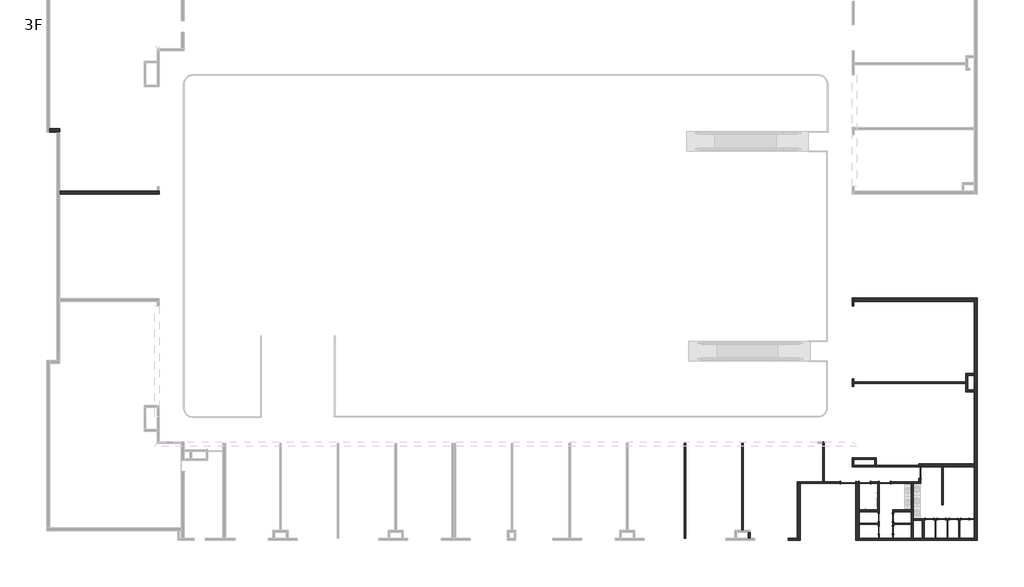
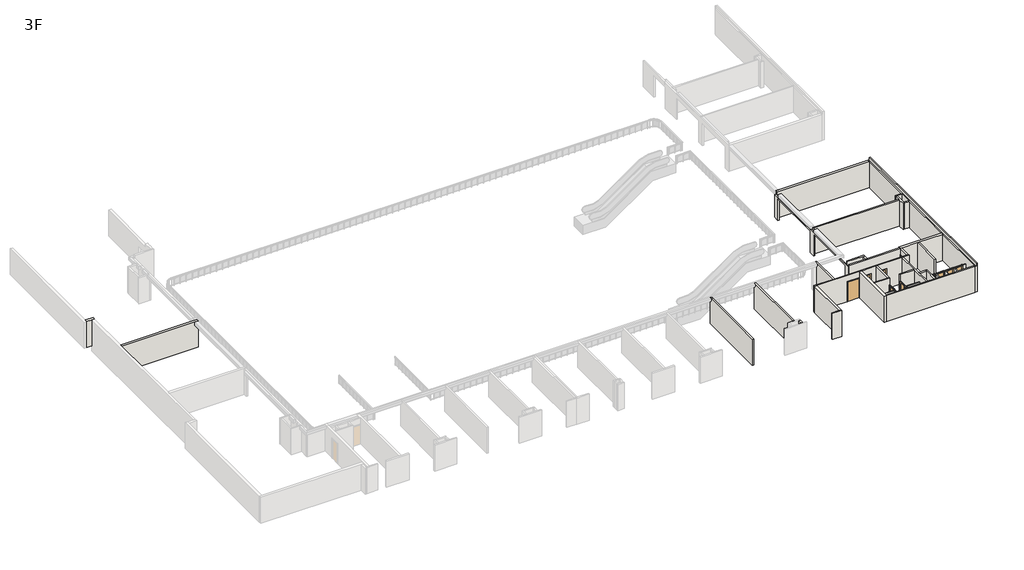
# One storey, part 2 of 4: 38 walls, 12 doors.
"""IFC4 building model written with IfcOpenShell, lengths in millimetres."""

from ifc_helpers import new_model, si_unit, frame, origin, place, context, project, spatial, polyline, outline, extrude, faceted_brep, transform, mapped, element, save
from components import m_single_flush_d_1200x2150_085a39eb, m_single_flush_d_600x2100_toilet_partition_8216d307, m_single_flush_d_900x2150_308bf3ab, m_single_flush_d_900x2150_4cfb9a1c

model = new_model("IFC4")

# Units and contexts
model_context = context("Model", 3, world=origin())
ifc_project = project(units=[si_unit("LENGTHUNIT", "METRE", prefix="MILLI")], contexts=[model_context])

# Site, building, storey
site = spatial("IfcSite", under=ifc_project)
building = spatial("IfcBuilding", under=site)
storey = spatial("IfcBuildingStorey", under=building, Name="3F", Elevation=11850.0)

# Doors
placement = place(None, origin())
m_single_flush_d_1200x2150_shape = m_single_flush_d_1200x2150_085a39eb(model_context)
element("IfcDoor", 1, ObjectType="M_Single-Flush : D-1200x2150", at=placement, inside=storey, context=model_context, shape_type="MappedRepresentation", body=[
    mapped(m_single_flush_d_1200x2150_shape, transform((32612.4134101, -21228.6148653, 11850.0), x_axis=(1.0, 0.0, 0.0), y_axis=(0.0, 1.0, 0.0), z_axis=(0.0, 0.0, 1.0))),
])
m_single_flush_d_600x2100_toilet_partition_shape = m_single_flush_d_600x2100_toilet_partition_8216d307(model_context)
element("IfcDoor", 2, ObjectType="M_Single-Flush : D-600x2100-toilet-partition", at=placement, inside=storey, context=model_context, shape_type="MappedRepresentation", body=[
    mapped(m_single_flush_d_600x2100_toilet_partition_shape, transform((39137.4134101, -24152.6148653, 11850.0), x_axis=(-1.0, 0.0, 0.0), y_axis=(0.0, -1.0, 0.0), z_axis=(0.0, 0.0, 1.0))),
])
element("IfcDoor", 3, ObjectType="M_Single-Flush : D-600x2100-toilet-partition", at=placement, inside=storey, context=model_context, shape_type="MappedRepresentation", body=[
    mapped(m_single_flush_d_600x2100_toilet_partition_shape, transform((40087.4134101, -24152.6148653, 11850.0), x_axis=(-1.0, 0.0, 0.0), y_axis=(0.0, -1.0, 0.0), z_axis=(0.0, 0.0, 1.0))),
])
element("IfcDoor", 4, ObjectType="M_Single-Flush : D-600x2100-toilet-partition", at=placement, inside=storey, context=model_context, shape_type="MappedRepresentation", body=[
    mapped(m_single_flush_d_600x2100_toilet_partition_shape, transform((41037.4134101, -24152.6148653, 11850.0), x_axis=(-1.0, 0.0, 0.0), y_axis=(0.0, -1.0, 0.0), z_axis=(0.0, 0.0, 1.0))),
])
element("IfcDoor", 5, ObjectType="M_Single-Flush : D-600x2100-toilet-partition", at=placement, inside=storey, context=model_context, shape_type="MappedRepresentation", body=[
    mapped(m_single_flush_d_600x2100_toilet_partition_shape, transform((41987.4134101, -24152.6148653, 11850.0), x_axis=(-1.0, 0.0, 0.0), y_axis=(0.0, -1.0, 0.0), z_axis=(0.0, 0.0, 1.0))),
])
element("IfcDoor", 6, ObjectType="M_Single-Flush : D-600x2100-toilet-partition", at=placement, inside=storey, context=model_context, shape_type="MappedRepresentation", body=[
    mapped(m_single_flush_d_600x2100_toilet_partition_shape, transform((36217.4134101, -24027.6148653, 11850.0), x_axis=(0.0, -1.0, 0.0), y_axis=(1.0, 0.0, 0.0), z_axis=(0.0, 0.0, 1.0))),
])
element("IfcDoor", 7, ObjectType="M_Single-Flush : D-600x2100-toilet-partition", at=placement, inside=storey, context=model_context, shape_type="MappedRepresentation", body=[
    mapped(m_single_flush_d_600x2100_toilet_partition_shape, transform((36217.4134101, -25027.6148653, 11850.0), x_axis=(0.0, -1.0, 0.0), y_axis=(1.0, 0.0, 0.0), z_axis=(0.0, 0.0, 1.0))),
])
element("IfcDoor", 8, ObjectType="M_Single-Flush : D-600x2100-toilet-partition", at=placement, inside=storey, context=model_context, shape_type="MappedRepresentation", body=[
    mapped(m_single_flush_d_600x2100_toilet_partition_shape, transform((35082.4134101, -24027.6148653, 11850.0), x_axis=(0.0, 1.0, 0.0), y_axis=(-1.0, 0.0, 0.0), z_axis=(0.0, 0.0, 1.0))),
])
element("IfcDoor", 9, ObjectType="M_Single-Flush : D-600x2100-toilet-partition", at=placement, inside=storey, context=model_context, shape_type="MappedRepresentation", body=[
    mapped(m_single_flush_d_600x2100_toilet_partition_shape, transform((35082.4134101, -25027.6148653, 11850.0), x_axis=(0.0, 1.0, 0.0), y_axis=(-1.0, 0.0, 0.0), z_axis=(0.0, 0.0, 1.0))),
])
m_single_flush_d_900x2150_shape = m_single_flush_d_900x2150_308bf3ab(model_context)
element("IfcDoor", 10, ObjectType="M_Single-Flush : D-900x2150", at=placement, inside=storey, context=model_context, shape_type="MappedRepresentation", body=[
    mapped(m_single_flush_d_900x2150_shape, transform((35557.4134101, -21228.6148653, 11850.0), x_axis=(-1.0, 0.0, 0.0), y_axis=(0.0, -1.0, 0.0), z_axis=(0.0, 0.0, 1.0))),
])
element("IfcDoor", 11, ObjectType="M_Single-Flush : D-900x2150", at=placement, inside=storey, context=model_context, shape_type="MappedRepresentation", body=[
    mapped(m_single_flush_d_900x2150_shape, transform((33942.4134101, -21228.6148653, 11850.0), x_axis=(-1.0, 0.0, 0.0), y_axis=(0.0, -1.0, 0.0), z_axis=(0.0, 0.0, 1.0))),
])
m_single_flush_d_900x2150_2_shape = m_single_flush_d_900x2150_4cfb9a1c(model_context)
element("IfcDoor", 12, ObjectType="M_Single-Flush : D-900x2150", at=placement, inside=storey, context=model_context, shape_type="MappedRepresentation", body=[
    mapped(m_single_flush_d_900x2150_2_shape, transform((38363.4134101, -20422.6148653, 11850.0), x_axis=(0.0, 1.0, 0.0), y_axis=(-1.0, 0.0, 0.0), z_axis=(0.0, 0.0, 1.0))),
])

# Walls
element("IfcWall", 13, ObjectType="Toilet-partition", at=placement, inside=storey, context=model_context, shape_type="Brep", body=[
    faceted_brep([(41337.4134101, -24177.6148653, 11850.0), (41487.4134101, -24177.6148653, 11850.0), (41537.4134101, -24177.6148653, 11850.0), (41687.4134101, -24177.6148653, 11850.0), (41687.4134101, -24177.6148653, 13950.0), (42287.4134101, -24177.6148653, 13950.0), (42287.4134101, -24177.6148653, 11850.0), (42717.4134101, -24177.6148653, 11850.0), (42717.4134101, -24177.6148653, 14000.0), (41537.4134101, -24177.6148653, 14000.0), (41487.4134101, -24177.6148653, 14000.0), (40587.4134101, -24177.6148653, 14000.0), (40537.4134101, -24177.6148653, 14000.0), (39637.4134101, -24177.6148653, 14000.0), (39587.4134101, -24177.6148653, 14000.0), (38699.4134101, -24177.6148653, 14000.0), (38699.4134101, -24177.6148653, 11850.0), (38837.4134101, -24177.6148653, 11850.0), (38837.4134101, -24177.6148653, 13950.0), (39437.4134101, -24177.6148653, 13950.0), (39437.4134101, -24177.6148653, 11850.0), (39587.4134101, -24177.6148653, 11850.0), (39637.4134101, -24177.6148653, 11850.0), (39787.4134101, -24177.6148653, 11850.0), (39787.4134101, -24177.6148653, 13950.0), (40387.4134101, -24177.6148653, 13950.0), (40387.4134101, -24177.6148653, 11850.0), (40537.4134101, -24177.6148653, 11850.0), (40587.4134101, -24177.6148653, 11850.0), (40737.4134101, -24177.6148653, 11850.0), (40737.4134101, -24177.6148653, 13950.0), (41337.4134101, -24177.6148653, 13950.0), (41687.4134101, -24127.6148653, 13950.0), (41687.4134101, -24127.6148653, 11850.0), (41337.4134101, -24127.6148653, 11850.0), (41337.4134101, -24127.6148653, 13950.0), (40737.4134101, -24127.6148653, 13950.0), (40737.4134101, -24127.6148653, 11850.0), (40387.4134101, -24127.6148653, 11850.0), (40387.4134101, -24127.6148653, 13950.0), (39787.4134101, -24127.6148653, 13950.0), (39787.4134101, -24127.6148653, 11850.0), (39437.4134101, -24127.6148653, 11850.0), (39437.4134101, -24127.6148653, 13950.0), (38837.4134101, -24127.6148653, 13950.0), (38837.4134101, -24127.6148653, 11850.0), (38699.4134101, -24127.6148653, 11850.0), (38699.4134101, -24127.6148653, 14000.0), (42717.4134101, -24127.6148653, 14000.0), (42717.4134101, -24127.6148653, 11850.0), (42287.4134101, -24127.6148653, 11850.0), (42287.4134101, -24127.6148653, 13950.0)], [[[0, 1, 2, 3, 4, 5, 6, 7, 8, 9, 10, 11, 12, 13, 14, 15, 16, 17, 18, 19, 20, 21, 22, 23, 24, 25, 26, 27, 28, 29, 30, 31]], [[32, 33, 34, 35, 36, 37, 38, 39, 40, 41, 42, 43, 44, 45, 46, 47, 48, 49, 50, 51]], [[46, 45, 17, 16]], [[42, 41, 23, 22, 21, 20]], [[38, 37, 29, 28, 27, 26]], [[34, 33, 3, 2, 1, 0]], [[50, 49, 7, 6]], [[15, 14, 13, 12, 11, 10, 9, 8, 48, 47]], [[16, 15, 47, 46]], [[8, 7, 49, 48]], [[18, 17, 45, 44]], [[19, 18, 44, 43]], [[20, 19, 43, 42]], [[24, 23, 41, 40]], [[25, 24, 40, 39]], [[26, 25, 39, 38]], [[30, 29, 37, 36]], [[31, 30, 36, 35]], [[0, 31, 35, 34]], [[4, 3, 33, 32]], [[5, 4, 32, 51]], [[6, 5, 51, 50]]]),
])
element("IfcWall", 14, ObjectType="Toilet-partition", at=placement, inside=storey, context=model_context, shape_type="SweptSolid", body=[
    extrude(outline(polyline([(39587.4134101, -25692.6148653), (39587.4134101, -24177.6148653), (39637.4134101, -24177.6148653), (39637.4134101, -25692.6148653), (39587.4134101, -25692.6148653)])), frame((0.0, 0.0, 11850.0), z_axis=(0.0, 0.0, 1.0), x_axis=(1.0, 0.0, 0.0)), (0.0, 0.0, 1.0), 2150.0),
])
element("IfcWall", 15, ObjectType="Toilet-partition", at=placement, inside=storey, context=model_context, shape_type="SweptSolid", body=[
    extrude(outline(polyline([(40537.4134101, -25692.6148653), (40537.4134101, -24177.6148653), (40587.4134101, -24177.6148653), (40587.4134101, -25692.6148653), (40537.4134101, -25692.6148653)])), frame((0.0, 0.0, 11850.0), z_axis=(0.0, 0.0, 1.0), x_axis=(1.0, 0.0, 0.0)), (0.0, 0.0, 1.0), 2150.0),
])
element("IfcWall", 16, ObjectType="Toilet-partition", at=placement, inside=storey, context=model_context, shape_type="SweptSolid", body=[
    extrude(outline(polyline([(41487.4134101, -25692.6148653), (41487.4134101, -24177.6148653), (41537.4134101, -24177.6148653), (41537.4134101, -25692.6148653), (41487.4134101, -25692.6148653)])), frame((0.0, 0.0, 11850.0), z_axis=(0.0, 0.0, 1.0), x_axis=(1.0, 0.0, 0.0)), (0.0, 0.0, 1.0), 2150.0),
])
element("IfcWall", 17, ObjectType="Toilet-partition", at=placement, inside=storey, context=model_context, shape_type="Brep", body=[
    faceted_brep([(36192.4134101, -25327.6148653, 13950.0), (36192.4134101, -25327.6148653, 11850.0), (36192.4134101, -25692.6148653, 11850.0), (36192.4134101, -25692.6148653, 14000.0), (36192.4134101, -23564.6148653, 14000.0), (36192.4134101, -23564.6148653, 11850.0), (36192.4134101, -23727.6148653, 11850.0), (36192.4134101, -23727.6148653, 13950.0), (36192.4134101, -24327.6148653, 13950.0), (36192.4134101, -24327.6148653, 11850.0), (36192.4134101, -24727.6148653, 11850.0), (36192.4134101, -24727.6148653, 13950.0), (36242.4134101, -25692.6148653, 11850.0), (36242.4134101, -25327.6148653, 11850.0), (36242.4134101, -25327.6148653, 13950.0), (36242.4134101, -24727.6148653, 13950.0), (36242.4134101, -24727.6148653, 11850.0), (36242.4134101, -24552.6148653, 11850.0), (36242.4134101, -24502.6148653, 11850.0), (36242.4134101, -24327.6148653, 11850.0), (36242.4134101, -24327.6148653, 13950.0), (36242.4134101, -23727.6148653, 13950.0), (36242.4134101, -23727.6148653, 11850.0), (36242.4134101, -23564.6148653, 11850.0), (36242.4134101, -23564.6148653, 14000.0), (36242.4134101, -24502.6148653, 14000.0), (36242.4134101, -24552.6148653, 14000.0), (36242.4134101, -25692.6148653, 14000.0)], [[[0, 1, 2, 3, 4, 5, 6, 7, 8, 9, 10, 11]], [[12, 13, 14, 15, 16, 17, 18, 19, 20, 21, 22, 23, 24, 25, 26, 27]], [[2, 1, 13, 12]], [[6, 5, 23, 22]], [[10, 9, 19, 18, 17, 16]], [[4, 3, 27, 26, 25, 24]], [[5, 4, 24, 23]], [[3, 2, 12, 27]], [[20, 19, 9, 8]], [[21, 20, 8, 7]], [[22, 21, 7, 6]], [[14, 13, 1, 0]], [[15, 14, 0, 11]], [[16, 15, 11, 10]]]),
])
element("IfcWall", 18, ObjectType="Toilet-partition", at=placement, inside=storey, context=model_context, shape_type="SweptSolid", body=[
    extrude(outline(polyline([(37692.4134101, -24552.6148653), (36242.4134101, -24552.6148653), (36242.4134101, -24502.6148653), (37692.4134101, -24502.6148653), (37692.4134101, -24552.6148653)])), frame((0.0, 0.0, 11850.0), z_axis=(0.0, 0.0, 1.0), x_axis=(1.0, 0.0, 0.0)), (0.0, 0.0, 1.0), 2150.0),
])
element("IfcWall", 19, ObjectType="Toilet-partition", at=placement, inside=storey, context=model_context, shape_type="Brep", body=[
    faceted_brep([(35057.4134101, -24327.6148653, 11850.0), (35057.4134101, -24502.6148653, 11850.0), (35057.4134101, -24552.6148653, 11850.0), (35057.4134101, -24727.6148653, 11850.0), (35057.4134101, -24727.6148653, 13950.0), (35057.4134101, -25327.6148653, 13950.0), (35057.4134101, -25327.6148653, 11850.0), (35057.4134101, -25692.6148653, 11850.0), (35057.4134101, -25692.6148653, 14000.0), (35057.4134101, -24552.6148653, 14000.0), (35057.4134101, -24502.6148653, 14000.0), (35057.4134101, -23564.6148653, 14000.0), (35057.4134101, -23564.6148653, 11850.0), (35057.4134101, -23727.6148653, 11850.0), (35057.4134101, -23727.6148653, 13950.0), (35057.4134101, -24327.6148653, 13950.0), (35107.4134101, -24727.6148653, 13950.0), (35107.4134101, -24727.6148653, 11850.0), (35107.4134101, -24327.6148653, 11850.0), (35107.4134101, -24327.6148653, 13950.0), (35107.4134101, -23727.6148653, 13950.0), (35107.4134101, -23727.6148653, 11850.0), (35107.4134101, -23564.6148653, 11850.0), (35107.4134101, -23564.6148653, 14000.0), (35107.4134101, -25692.6148653, 14000.0), (35107.4134101, -25692.6148653, 11850.0), (35107.4134101, -25327.6148653, 11850.0), (35107.4134101, -25327.6148653, 13950.0)], [[[0, 1, 2, 3, 4, 5, 6, 7, 8, 9, 10, 11, 12, 13, 14, 15]], [[16, 17, 18, 19, 20, 21, 22, 23, 24, 25, 26, 27]], [[22, 21, 13, 12]], [[18, 17, 3, 2, 1, 0]], [[26, 25, 7, 6]], [[11, 10, 9, 8, 24, 23]], [[12, 11, 23, 22]], [[8, 7, 25, 24]], [[14, 13, 21, 20]], [[15, 14, 20, 19]], [[0, 15, 19, 18]], [[4, 3, 17, 16]], [[5, 4, 16, 27]], [[6, 5, 27, 26]]]),
])
element("IfcWall", 20, ObjectType="Toilet-partition", at=placement, inside=storey, context=model_context, shape_type="SweptSolid", body=[
    extrude(outline(polyline([(33504.4134101, -24502.6148653), (35057.4134101, -24502.6148653), (35057.4134101, -24552.6148653), (33504.4134101, -24552.6148653), (33504.4134101, -24502.6148653)])), frame((0.0, 0.0, 11850.0), z_axis=(0.0, 0.0, 1.0), x_axis=(1.0, 0.0, 0.0)), (0.0, 0.0, 1.0), 2150.0),
])
element("IfcWall", 21, ObjectType="wall-115", at=placement, inside=storey, context=model_context, shape_type="Brep", body=[
    faceted_brep([(28542.4134101, -21299.6148653, 11850.0), (28799.4134101, -21299.6148653, 11850.0), (32012.4134101, -21299.6148653, 11850.0), (32012.4134101, -21299.6148653, 14000.0), (33212.4134101, -21299.6148653, 14000.0), (33212.4134101, -21299.6148653, 11850.0), (33247.4134101, -21299.6148653, 11850.0), (33492.4134101, -21299.6148653, 11850.0), (33492.4134101, -21299.6148653, 14000.0), (34392.4134101, -21299.6148653, 14000.0), (34392.4134101, -21299.6148653, 11850.0), (34977.4134101, -21299.6148653, 11850.0), (35107.4134101, -21299.6148653, 11850.0), (35107.4134101, -21299.6148653, 14000.0), (36007.4134101, -21299.6148653, 14000.0), (36007.4134101, -21299.6148653, 11850.0), (37692.4134101, -21299.6148653, 11850.0), (37834.4134101, -21299.6148653, 11850.0), (38434.4134101, -21299.6148653, 11850.0), (38434.4134101, -21299.6148653, 14725.0), (37834.4134101, -21299.6148653, 14725.0), (37692.4134101, -21299.6148653, 14725.0), (35119.4134101, -21299.6148653, 14725.0), (34977.4134101, -21299.6148653, 14725.0), (33504.4134101, -21299.6148653, 14725.0), (33247.4134101, -21299.6148653, 14725.0), (28799.4134101, -21299.6148653, 14725.0), (28542.4134101, -21299.6148653, 14725.0), (32012.4134101, -21157.6148653, 11850.0), (30724.4134101, -21157.6148653, 11850.0), (30582.4134101, -21157.6148653, 11850.0), (28542.4134101, -21157.6148653, 11850.0), (28542.4134101, -21157.6148653, 14725.0), (30582.4134101, -21157.6148653, 14725.0), (30724.4134101, -21157.6148653, 14725.0), (38292.4134101, -21157.6148653, 14725.0), (38434.4134101, -21157.6148653, 14725.0), (38434.4134101, -21157.6148653, 11850.0), (38292.4134101, -21157.6148653, 11850.0), (36007.4134101, -21157.6148653, 11850.0), (36007.4134101, -21157.6148653, 14000.0), (35107.4134101, -21157.6148653, 14000.0), (35107.4134101, -21157.6148653, 11850.0), (34392.4134101, -21157.6148653, 11850.0), (34392.4134101, -21157.6148653, 14000.0), (33492.4134101, -21157.6148653, 14000.0), (33492.4134101, -21157.6148653, 11850.0), (33212.4134101, -21157.6148653, 11850.0), (33212.4134101, -21157.6148653, 14000.0), (32012.4134101, -21157.6148653, 14000.0)], [[[0, 1, 2, 3, 4, 5, 6, 7, 8, 9, 10, 11, 12, 13, 14, 15, 16, 17, 18, 19, 20, 21, 22, 23, 24, 25, 26, 27]], [[28, 29, 30, 31, 32, 33, 34, 35, 36, 37, 38, 39, 40, 41, 42, 43, 44, 45, 46, 47, 48, 49]], [[37, 18, 17, 16, 15, 39, 38]], [[0, 31, 30, 29, 28, 2, 1]], [[5, 47, 46, 7, 6]], [[42, 12, 11, 10, 43]], [[18, 37, 36, 19]], [[31, 0, 27, 32]], [[4, 48, 47, 5]], [[48, 4, 3, 49]], [[49, 3, 2, 28]], [[13, 12, 42, 41]], [[14, 13, 41, 40]], [[15, 14, 40, 39]], [[8, 7, 46, 45]], [[9, 8, 45, 44]], [[10, 9, 44, 43]], [[27, 26, 25, 24, 23, 22, 21, 20, 19, 36, 35, 34, 33, 32]]]),
])
element("IfcWall", 22, ObjectType="wall-115", at=placement, inside=storey, context=model_context, shape_type="Brep", body=[
    faceted_brep([(42717.4134101, -12495.6148653, 11850.0), (42055.4134101, -12495.6148653, 11850.0), (42055.4134101, -12495.6148653, 14725.0), (42717.4134101, -12495.6148653, 14725.0), (42055.4134101, -12637.6148653, 11850.0), (42197.4134101, -12637.6148653, 11850.0), (42717.4134101, -12637.6148653, 11850.0), (42717.4134101, -12637.6148653, 14725.0), (42197.4134101, -12637.6148653, 14725.0), (42055.4134101, -12637.6148653, 14725.0)], [[[0, 1, 2, 3]], [[4, 5, 6, 7, 8, 9]], [[1, 0, 6, 5, 4]], [[1, 4, 9, 2]], [[6, 0, 3, 7]], [[3, 2, 9, 8, 7]]]),
])
element("IfcWall", 23, ObjectType="wall-115", at=placement, inside=storey, context=model_context, shape_type="Brep", body=[
    faceted_brep([(42055.4134101, -12637.6148653, 11850.0), (42055.4134101, -13150.1148653, 11850.0), (42055.4134101, -13292.1148653, 11850.0), (42055.4134101, -13949.6148653, 11850.0), (42055.4134101, -13949.6148653, 14725.0), (42055.4134101, -13292.1148653, 14725.0), (42055.4134101, -13150.1148653, 14725.0), (42055.4134101, -12637.6148653, 14725.0), (42197.4134101, -13949.6148653, 11850.0), (42197.4134101, -13807.6148653, 11850.0), (42197.4134101, -12637.6148653, 11850.0), (42197.4134101, -12637.6148653, 14725.0), (42197.4134101, -13807.6148653, 14725.0), (42197.4134101, -13949.6148653, 14725.0)], [[[0, 1, 2, 3, 4, 5, 6, 7]], [[8, 9, 10, 11, 12, 13]], [[3, 2, 1, 0, 10, 9, 8]], [[3, 8, 13, 4]], [[10, 0, 7, 11]], [[7, 6, 5, 4, 13, 12, 11]]]),
])
element("IfcWall", 24, ObjectType="wall-115", at=placement, inside=storey, context=model_context, shape_type="SweptSolid", body=[
    extrude(outline(polyline([(42717.4134101, -13949.6148653), (42197.4134101, -13949.6148653), (42197.4134101, -13807.6148653), (42717.4134101, -13807.6148653), (42717.4134101, -13949.6148653)])), frame((0.0, 0.0, 11850.0), z_axis=(0.0, 0.0, 1.0), x_axis=(1.0, 0.0, 0.0)), (0.0, 0.0, 1.0), 2875.0),
])
element("IfcWall", 25, ObjectType="wall-115", at=placement, inside=storey, context=model_context, shape_type="Brep", body=[
    faceted_brep([(38434.4134101, -21157.6148653, 11850.0), (38434.4134101, -20872.6148653, 11850.0), (38434.4134101, -20872.6148653, 14000.0), (38434.4134101, -19984.6148653, 14000.0), (38434.4134101, -19984.6148653, 14725.0), (38434.4134101, -21157.6148653, 14725.0), (38292.4134101, -20872.6148653, 11850.0), (38292.4134101, -21157.6148653, 11850.0), (38292.4134101, -21157.6148653, 14725.0), (38292.4134101, -19987.6148653, 14725.0), (38292.4134101, -19984.6148653, 14725.0), (38292.4134101, -19984.6148653, 14000.0), (38292.4134101, -20872.6148653, 14000.0)], [[[0, 1, 2, 3, 4, 5]], [[6, 7, 8, 9, 10, 11, 12]], [[0, 7, 6, 1]], [[7, 0, 5, 8]], [[3, 11, 10, 4]], [[2, 12, 11, 3]], [[12, 2, 1, 6]], [[5, 4, 10, 9, 8]]]),
])
element("IfcWall", 26, ObjectType="wall-115", at=placement, inside=storey, context=model_context, shape_type="SweptSolid", body=[
    extrude(outline(polyline([(40244.8019347, -19984.6148653), (40244.8019347, -23027.6148653), (40102.8019347, -23027.6148653), (40102.8019347, -19984.6148653), (40244.8019347, -19984.6148653)])), frame((0.0, 0.0, 11850.0), z_axis=(0.0, 0.0, 1.0), x_axis=(1.0, 0.0, 0.0)), (0.0, 0.0, 1.0), 2875.0),
])
element("IfcWall", 27, ObjectType="wall-115", at=placement, inside=storey, context=model_context, shape_type="Brep", body=[
    faceted_brep([(30724.4134101, -21157.6148653, 11850.0), (30724.4134101, -17960.6148653, 11850.0), (30724.4134101, -17960.6148653, 14725.0), (30724.4134101, -21157.6148653, 14725.0), (30582.4134101, -17960.6148653, 11850.0), (30582.4134101, -18102.6148653, 11850.0), (30582.4134101, -21157.6148653, 11850.0), (30582.4134101, -21157.6148653, 14725.0), (30582.4134101, -18102.6148653, 14725.0), (30582.4134101, -17960.6148653, 14725.0)], [[[0, 1, 2, 3]], [[4, 5, 6, 7, 8, 9]], [[1, 0, 6, 5, 4]], [[1, 4, 9, 2]], [[6, 0, 3, 7]], [[3, 2, 9, 8, 7]]]),
])
element("IfcWall", 28, ObjectType="wall-115", at=placement, inside=storey, context=model_context, shape_type="Brep", body=[
    faceted_brep([(27812.4134101, -25834.6148653, 11850.0), (28799.4134101, -25834.6148653, 11850.0), (28799.4134101, -25834.6148653, 14725.0), (27812.4134101, -25834.6148653, 14725.0), (28799.4134101, -25692.6148653, 11850.0), (28542.4134101, -25692.6148653, 11850.0), (27812.4134101, -25692.6148653, 11850.0), (27812.4134101, -25692.6148653, 14725.0), (28542.4134101, -25692.6148653, 14725.0), (28799.4134101, -25692.6148653, 14725.0)], [[[0, 1, 2, 3]], [[4, 5, 6, 7, 8, 9]], [[1, 0, 6, 5, 4]], [[6, 0, 3, 7]], [[1, 4, 9, 2]], [[3, 2, 9, 8, 7]]]),
])
element("IfcWall", 29, ObjectType="wall-115", at=placement, inside=storey, context=model_context, shape_type="SweptSolid", body=[
    extrude(outline(polyline([(24241.9134101, -18102.6148653), (24241.9134101, -25062.6148653), (24099.9134101, -25062.6148653), (24099.9134101, -18102.6148653), (24241.9134101, -18102.6148653)])), frame((0.0, 0.0, 11850.0), z_axis=(0.0, 0.0, 1.0), x_axis=(1.0, 0.0, 0.0)), (0.0, 0.0, 1.0), 2875.0),
])
element("IfcWall", 30, ObjectType="wall-115", at=placement, inside=storey, context=model_context, shape_type="SweptSolid", body=[
    extrude(outline(polyline([(19626.9134101, -18102.6148653), (19626.9134101, -25707.6148653), (19484.9134101, -25707.6148653), (19484.9134101, -18102.6148653), (19626.9134101, -18102.6148653)])), frame((0.0, 0.0, 11850.0), z_axis=(0.0, 0.0, 1.0), x_axis=(1.0, 0.0, 0.0)), (0.0, 0.0, 1.0), 2875.0),
])
element("IfcWall", 31, ObjectType="wall-115", at=placement, inside=storey, context=model_context, shape_type="SweptSolid", body=[
    extrude(outline(polyline([(24645.4134101, -25692.6148653), (24645.4134101, -25204.6148653), (24787.4134101, -25204.6148653), (24787.4134101, -25692.6148653), (24645.4134101, -25692.6148653)])), frame((0.0, 0.0, 11850.0), z_axis=(0.0, 0.0, 1.0), x_axis=(1.0, 0.0, 0.0)), (0.0, 0.0, 1.0), 2875.0),
])
element("IfcWall", 32, ObjectType="wall-115", at=placement, inside=storey, context=model_context, shape_type="Brep", body=[
    faceted_brep([(38292.4134101, -19845.6148653, 11850.0), (34889.4134101, -19845.6148653, 11850.0), (34747.4134101, -19845.6148653, 11850.0), (33089.4134101, -19845.6148653, 11850.0), (32947.4134101, -19845.6148653, 11850.0), (32947.4134101, -19845.6148653, 14375.0), (32947.4134101, -19845.6148653, 14725.0), (34747.4134101, -19845.6148653, 14725.0), (34889.4134101, -19845.6148653, 14725.0), (38292.4134101, -19845.6148653, 14725.0), (32947.4134101, -19987.6148653, 11850.0), (38292.4134101, -19987.6148653, 11850.0), (38292.4134101, -19987.6148653, 14725.0), (32947.4134101, -19987.6148653, 14725.0), (38292.4134101, -19972.6148653, 11850.0), (38292.4134101, -19984.6148653, 14725.0)], [[[0, 1, 2, 3, 4, 5, 6, 7, 8, 9]], [[10, 11, 12, 13]], [[4, 3, 2, 1, 0, 14, 11, 10]], [[4, 10, 13, 6, 5]], [[11, 14, 0, 9, 15, 12]], [[9, 8, 7, 6, 13, 12, 15]]]),
])
element("IfcWall", 33, ObjectType="wall-115", at=placement, inside=storey, context=model_context, shape_type="SweptSolid", body=[
    extrude(outline(polyline([(42055.4134101, -13292.1148653), (33089.4134101, -13292.1148653), (33089.4134101, -13150.1148653), (42055.4134101, -13150.1148653), (42055.4134101, -13292.1148653)])), frame((0.0, 0.0, 11850.0), z_axis=(0.0, 0.0, 1.0), x_axis=(1.0, 0.0, 0.0)), (0.0, 0.0, 1.0), 2875.0),
])
element("IfcWall", 34, ObjectType="wall-115", at=placement, inside=storey, context=model_context, shape_type="Brep", body=[
    faceted_brep([(33089.4134101, -6457.6148653, 11850.0), (33089.4134101, -6457.6148653, 14375.0), (33089.4134101, -17960.6148653, 14375.0), (33089.4134101, -19845.6148653, 14375.0), (33089.4134101, -19845.6148653, 11850.0), (33089.4134101, -19387.6148653, 11850.0), (33089.4134101, -19257.6148653, 11850.0), (33089.4134101, -19257.6148653, 14250.0), (33089.4134101, -13522.6148653, 14250.0), (33089.4134101, -13522.6148653, 11850.0), (33089.4134101, -13292.1148653, 11850.0), (33089.4134101, -13150.1148653, 11850.0), (33089.4134101, -12922.6148653, 11850.0), (33089.4134101, -12922.6148653, 14250.0), (33089.4134101, -7072.6148653, 14250.0), (33089.4134101, -7072.6148653, 11850.0), (33089.4134101, -6714.6148653, 11850.0), (32947.4134101, -6457.6148653, 14375.0), (32947.4134101, -6457.6148653, 11850.0), (32947.4134101, -7072.6148653, 11850.0), (32947.4134101, -7072.6148653, 14250.0), (32947.4134101, -12922.6148653, 14250.0), (32947.4134101, -12922.6148653, 11850.0), (32947.4134101, -13522.6148653, 11850.0), (32947.4134101, -13522.6148653, 14250.0), (32947.4134101, -19257.6148653, 14250.0), (32947.4134101, -19257.6148653, 11850.0), (32947.4134101, -19845.6148653, 11850.0), (32947.4134101, -19845.6148653, 14375.0), (32947.4134101, -17960.6148653, 14375.0), (32950.4134101, -6457.6148653, 14375.0), (32950.4134101, -19845.6148653, 14375.0), (32950.4134101, -17960.6148653, 14375.0)], [[[0, 1, 2, 3, 4, 5, 6, 7, 8, 9, 10, 11, 12, 13, 14, 15, 16]], [[17, 18, 19, 20, 21, 22, 23, 24, 25, 26, 27, 28, 29]], [[18, 0, 16, 15, 19]], [[4, 27, 26, 6, 5]], [[9, 23, 22, 12, 11, 10]], [[1, 0, 18, 17, 30]], [[4, 3, 31, 28, 27]], [[28, 31, 32, 29]], [[1, 30, 32, 2]], [[31, 3, 2, 32]], [[30, 17, 29, 32]], [[7, 25, 24, 8]], [[8, 24, 23, 9]], [[25, 7, 6, 26]], [[20, 14, 13, 21]], [[21, 13, 12, 22]], [[14, 20, 19, 15]]]),
])
element("IfcWall", 35, ObjectType="wall-115", at=placement, inside=storey, context=model_context, shape_type="Brep", body=[
    faceted_brep([(33089.4134101, -19387.6148653, 11850.0), (34747.4134101, -19387.6148653, 11850.0), (34889.4134101, -19387.6148653, 11850.0), (34889.4134101, -19387.6148653, 14725.0), (34747.4134101, -19387.6148653, 14725.0), (33089.4134101, -19387.6148653, 14725.0), (34889.4134101, -19245.6148653, 11850.0), (33089.4134101, -19245.6148653, 11850.0), (33089.4134101, -19245.6148653, 14725.0), (34889.4134101, -19245.6148653, 14725.0), (33089.4134101, -19257.6148653, 11850.0)], [[[0, 1, 2, 3, 4, 5]], [[6, 7, 8, 9]], [[2, 1, 0, 10, 7, 6]], [[2, 6, 9, 3]], [[7, 10, 0, 5, 8]], [[5, 4, 3, 9, 8]]]),
])
element("IfcWall", 36, ObjectType="wall-115", at=placement, inside=storey, context=model_context, shape_type="SweptSolid", body=[
    extrude(outline(polyline([(34747.4134101, -19845.6148653), (34747.4134101, -19387.6148653), (34889.4134101, -19387.6148653), (34889.4134101, -19845.6148653), (34747.4134101, -19845.6148653)])), frame((0.0, 0.0, 11850.0), z_axis=(0.0, 0.0, 1.0), x_axis=(1.0, 0.0, 0.0)), (0.0, 0.0, 1.0), 2875.0),
])
element("IfcWall", 37, ObjectType="wall-115", at=placement, inside=storey, context=model_context, shape_type="Brep", body=[
    faceted_brep([(33504.4134101, -23564.6148653, 11850.0), (35057.4134101, -23564.6148653, 11850.0), (35107.4134101, -23564.6148653, 11850.0), (35119.4134101, -23564.6148653, 11850.0), (35119.4134101, -23564.6148653, 14725.0), (33504.4134101, -23564.6148653, 14725.0), (35119.4134101, -23422.6148653, 11850.0), (34977.4134101, -23422.6148653, 11850.0), (33504.4134101, -23422.6148653, 11850.0), (33504.4134101, -23422.6148653, 14725.0), (34977.4134101, -23422.6148653, 14725.0), (35119.4134101, -23422.6148653, 14725.0)], [[[0, 1, 2, 3, 4, 5]], [[6, 7, 8, 9, 10, 11]], [[3, 2, 1, 0, 8, 7, 6]], [[8, 0, 5, 9]], [[3, 6, 11, 4]], [[5, 4, 11, 10, 9]]]),
])
element("IfcWall", 38, ObjectType="wall-115", at=placement, inside=storey, context=model_context, shape_type="Brep", body=[
    faceted_brep([(35119.4134101, -23422.6148653, 11850.0), (35119.4134101, -21299.6148653, 11850.0), (35119.4134101, -21299.6148653, 14725.0), (35119.4134101, -23422.6148653, 14725.0), (34977.4134101, -21299.6148653, 11850.0), (34977.4134101, -23422.6148653, 11850.0), (34977.4134101, -23422.6148653, 14725.0), (34977.4134101, -21299.6148653, 14725.0), (35107.4134101, -21299.6148653, 11850.0)], [[[0, 1, 2, 3]], [[4, 5, 6, 7]], [[1, 0, 5, 4, 8]], [[5, 0, 3, 6]], [[1, 8, 4, 7, 2]], [[3, 2, 7, 6]]]),
])
element("IfcWall", 39, ObjectType="wall-115", at=placement, inside=storey, context=model_context, shape_type="Brep", body=[
    faceted_brep([(36192.4134101, -23564.6148653, 11850.0), (36242.4134101, -23564.6148653, 11850.0), (37692.4134101, -23564.6148653, 11850.0), (37692.4134101, -23564.6148653, 14725.0), (36192.4134101, -23564.6148653, 14725.0), (36192.4134101, -23564.6148653, 14000.0), (37692.4134101, -23422.6148653, 11850.0), (36192.4134101, -23422.6148653, 11850.0), (36192.4134101, -23422.6148653, 14725.0), (37692.4134101, -23422.6148653, 14725.0)], [[[0, 1, 2, 3, 4, 5]], [[6, 7, 8, 9]], [[2, 1, 0, 7, 6]], [[2, 6, 9, 3]], [[7, 0, 5, 4, 8]], [[4, 3, 9, 8]]]),
])
element("IfcWall", 40, ObjectType="wall-115", at=placement, inside=storey, context=model_context, shape_type="Brep", body=[
    faceted_brep([(37834.4134101, -25692.6148653, 11850.0), (37834.4134101, -24257.6148653, 11850.0), (37834.4134101, -24115.6148653, 11850.0), (37834.4134101, -21299.6148653, 11850.0), (37834.4134101, -21299.6148653, 14725.0), (37834.4134101, -24115.6148653, 14725.0), (37834.4134101, -24257.6148653, 14725.0), (37834.4134101, -25692.6148653, 14725.0), (37692.4134101, -21299.6148653, 11850.0), (37692.4134101, -23422.6148653, 11850.0), (37692.4134101, -23564.6148653, 11850.0), (37692.4134101, -24502.6148653, 11850.0), (37692.4134101, -24552.6148653, 11850.0), (37692.4134101, -25692.6148653, 11850.0), (37692.4134101, -25692.6148653, 14725.0), (37692.4134101, -23564.6148653, 14725.0), (37692.4134101, -23422.6148653, 14725.0), (37692.4134101, -21299.6148653, 14725.0)], [[[0, 1, 2, 3, 4, 5, 6, 7]], [[8, 9, 10, 11, 12, 13, 14, 15, 16, 17]], [[3, 2, 1, 0, 13, 12, 11, 10, 9, 8]], [[3, 8, 17, 4]], [[13, 0, 7, 14]], [[7, 6, 5, 4, 17, 16, 15, 14]]]),
])
element("IfcWall", 41, ObjectType="wall-115", at=placement, inside=storey, context=model_context, shape_type="Brep", body=[
    faceted_brep([(38699.4134101, -25692.6148653, 11850.0), (38699.4134101, -24177.6148653, 11850.0), (38699.4134101, -24127.6148653, 11850.0), (38699.4134101, -24115.6148653, 11850.0), (38699.4134101, -24115.6148653, 14725.0), (38699.4134101, -25692.6148653, 14725.0), (38557.4134101, -24115.6148653, 11850.0), (38557.4134101, -24257.6148653, 11850.0), (38557.4134101, -25692.6148653, 11850.0), (38557.4134101, -25692.6148653, 14725.0), (38557.4134101, -24257.6148653, 14725.0), (38557.4134101, -24115.6148653, 14725.0)], [[[0, 1, 2, 3, 4, 5]], [[6, 7, 8, 9, 10, 11]], [[3, 2, 1, 0, 8, 7, 6]], [[3, 6, 11, 4]], [[8, 0, 5, 9]], [[5, 4, 11, 10, 9]]]),
])
element("IfcWall", 42, ObjectType="wall-115", at=placement, inside=storey, context=model_context, shape_type="SweptSolid", body=[
    extrude(outline(polyline([(37834.4134101, -24115.6148653), (38557.4134101, -24115.6148653), (38557.4134101, -24257.6148653), (37834.4134101, -24257.6148653), (37834.4134101, -24115.6148653)])), frame((0.0, 0.0, 11850.0), z_axis=(0.0, 0.0, 1.0), x_axis=(1.0, 0.0, 0.0)), (0.0, 0.0, 1.0), 2875.0),
])
element("IfcWall", 43, ObjectType="wall-115", at=placement, inside=storey, context=model_context, shape_type="Brep", body=[
    faceted_brep([(33504.4134101, -25834.6148653, 11850.0), (42717.4134101, -25834.6148653, 11850.0), (42717.4134101, -25834.6148653, 14725.0), (33504.4134101, -25834.6148653, 14725.0), (42717.4134101, -25692.6148653, 11850.0), (41537.4134101, -25692.6148653, 11850.0), (41487.4134101, -25692.6148653, 11850.0), (40587.4134101, -25692.6148653, 11850.0), (40537.4134101, -25692.6148653, 11850.0), (39637.4134101, -25692.6148653, 11850.0), (39587.4134101, -25692.6148653, 11850.0), (38699.4134101, -25692.6148653, 11850.0), (38557.4134101, -25692.6148653, 11850.0), (37834.4134101, -25692.6148653, 11850.0), (37692.4134101, -25692.6148653, 11850.0), (36242.4134101, -25692.6148653, 11850.0), (36192.4134101, -25692.6148653, 11850.0), (35107.4134101, -25692.6148653, 11850.0), (35057.4134101, -25692.6148653, 11850.0), (33504.4134101, -25692.6148653, 11850.0), (33504.4134101, -25692.6148653, 14725.0), (37692.4134101, -25692.6148653, 14725.0), (37834.4134101, -25692.6148653, 14725.0), (38557.4134101, -25692.6148653, 14725.0), (38699.4134101, -25692.6148653, 14725.0), (42717.4134101, -25692.6148653, 14725.0)], [[[0, 1, 2, 3]], [[4, 5, 6, 7, 8, 9, 10, 11, 12, 13, 14, 15, 16, 17, 18, 19, 20, 21, 22, 23, 24, 25]], [[1, 0, 19, 18, 17, 16, 15, 14, 13, 12, 11, 10, 9, 8, 7, 6, 5, 4]], [[19, 0, 3, 20]], [[1, 4, 25, 2]], [[3, 2, 25, 24, 23, 22, 21, 20]]]),
])
element("IfcWall", 44, ObjectType="wall-230", at=placement, inside=storey, context=model_context, shape_type="Brep", body=[
    faceted_brep([(38434.4134101, -19984.6148653, 11850.0), (40102.8019347, -19984.6148653, 11850.0), (40244.8019347, -19984.6148653, 11850.0), (42717.4134101, -19984.6148653, 11850.0), (42717.4134101, -19984.6148653, 14725.0), (40244.8019347, -19984.6148653, 14725.0), (40102.8019347, -19984.6148653, 14725.0), (38434.4134101, -19984.6148653, 14725.0), (38292.4134101, -19984.6148653, 14725.0), (38292.4134101, -19984.6148653, 14000.0), (38434.4134101, -19984.6148653, 14000.0), (42717.4134101, -19727.6148653, 11850.0), (38292.4134101, -19727.6148653, 11850.0), (38292.4134101, -19727.6148653, 14725.0), (42717.4134101, -19727.6148653, 14725.0), (38434.4134101, -19972.6148653, 11850.0), (38292.4134101, -19972.6148653, 11850.0), (38292.4134101, -19845.6148653, 11850.0), (38292.4134101, -19972.6148653, 14000.0), (38292.4134101, -19845.6148653, 14725.0), (38434.4134101, -19972.6148653, 14000.0)], [[[0, 1, 2, 3, 4, 5, 6, 7, 8, 9, 10]], [[11, 12, 13, 14]], [[12, 11, 3, 2, 1, 0, 15, 16, 17]], [[12, 17, 16, 18, 9, 8, 19, 13]], [[3, 11, 14, 4]], [[20, 15, 0, 10]], [[15, 20, 18, 16]], [[18, 20, 10, 9]], [[8, 7, 6, 5, 4, 14, 13, 19]]]),
])
element("IfcWall", 45, ObjectType="wall-230", at=placement, inside=storey, context=model_context, shape_type="Brep", body=[
    faceted_brep([(-22525.5865899, 2142.3851348, 11850.0), (-22667.5865899, 2142.3851348, 11850.0), (-30492.5865899, 2142.3851348, 11850.0), (-30492.5865899, 2142.3851348, 14725.0), (-22667.5865899, 2142.3851348, 14725.0), (-22525.5865899, 2142.3851348, 14725.0), (-30492.5865899, 1885.3851348, 11850.0), (-22525.5865899, 1885.3851348, 11850.0), (-22525.5865899, 1885.3851348, 14725.0), (-22899.5865899, 1885.3851348, 14725.0), (-30399.5865899, 1885.3851348, 14725.0), (-30492.5865899, 1885.3851348, 14725.0)], [[[0, 1, 2, 3, 4, 5]], [[6, 7, 8, 9, 10, 11]], [[2, 1, 0, 7, 6]], [[7, 0, 5, 8]], [[2, 6, 11, 3]], [[5, 4, 3, 11, 10, 9, 8]]]),
])
element("IfcWall", 46, ObjectType="wall-230", at=placement, inside=storey, context=model_context, shape_type="Brep", body=[
    faceted_brep([(42974.4134101, -25834.6148653, 11850.0), (42974.4134101, -6457.6148653, 11850.0), (42974.4134101, -6457.6148653, 15000.0), (42974.4134101, -25834.6148653, 15000.0), (42717.4134101, -6457.6148653, 11850.0), (42717.4134101, -6714.6148653, 11850.0), (42717.4134101, -12495.6148653, 11850.0), (42717.4134101, -12637.6148653, 11850.0), (42717.4134101, -13807.6148653, 11850.0), (42717.4134101, -13949.6148653, 11850.0), (42717.4134101, -19727.6148653, 11850.0), (42717.4134101, -19984.6148653, 11850.0), (42717.4134101, -24127.6148653, 11850.0), (42717.4134101, -24177.6148653, 11850.0), (42717.4134101, -25692.6148653, 11850.0), (42717.4134101, -25834.6148653, 11850.0), (42717.4134101, -25834.6148653, 14725.0), (42717.4134101, -25692.6148653, 14725.0), (42717.4134101, -19984.6148653, 14725.0), (42717.4134101, -19727.6148653, 14725.0), (42717.4134101, -13949.6148653, 14725.0), (42717.4134101, -13807.6148653, 14725.0), (42717.4134101, -12637.6148653, 14725.0), (42717.4134101, -12495.6148653, 14725.0), (42717.4134101, -6714.6148653, 14725.0), (42717.4134101, -6457.6148653, 14725.0), (42824.4134101, -6457.6148653, 15000.0), (42824.4134101, -25834.6148653, 15000.0), (42824.4134101, -6457.6148653, 14725.0), (42824.4134101, -25834.6148653, 14725.0)], [[[0, 1, 2, 3]], [[4, 5, 6, 7, 8, 9, 10, 11, 12, 13, 14, 15, 16, 17, 18, 19, 20, 21, 22, 23, 24, 25]], [[1, 0, 15, 14, 13, 12, 11, 10, 9, 8, 7, 6, 5, 4]], [[3, 2, 26, 27]], [[2, 1, 4, 25, 28, 26]], [[0, 3, 27, 29, 16, 15]], [[29, 28, 25, 24, 23, 22, 21, 20, 19, 18, 17, 16]], [[28, 29, 27, 26]]]),
])
element("IfcWall", 47, ObjectType="wall-230", at=placement, inside=storey, context=model_context, shape_type="Brep", body=[
    faceted_brep([(-31292.5865899, 6862.3851348, 11850.0), (-30607.5865899, 6862.3851348, 11850.0), (-30492.5865899, 6862.3851348, 11850.0), (-30492.5865899, 6862.3851348, 14725.0), (-30749.5865899, 6862.3851348, 14725.0), (-31292.5865899, 6862.3851348, 14725.0), (-30492.5865899, 7119.3851348, 11850.0), (-30607.5865899, 7119.3851348, 11850.0), (-31292.5865899, 7119.3851348, 11850.0), (-31292.5865899, 7119.3851348, 14725.0), (-30492.5865899, 7119.3851348, 14725.0)], [[[0, 1, 2, 3, 4, 5]], [[6, 7, 8, 9, 10]], [[2, 1, 0, 8, 7, 6]], [[8, 0, 5, 9]], [[2, 6, 10, 3]], [[4, 3, 10, 9, 5]]]),
])
element("IfcWall", 48, ObjectType="wall-230", at=placement, inside=storey, context=model_context, shape_type="Brep", body=[
    faceted_brep([(33089.4134101, -6714.6148653, 11850.0), (42717.4134101, -6714.6148653, 11850.0), (42717.4134101, -6714.6148653, 14725.0), (33089.4134101, -6714.6148653, 14725.0), (42717.4134101, -6457.6148653, 11850.0), (33089.4134101, -6457.6148653, 11850.0), (33089.4134101, -6457.6148653, 14375.0), (33089.4134101, -6457.6148653, 14725.0), (34077.4134101, -6457.6148653, 14725.0), (42717.4134101, -6457.6148653, 14725.0)], [[[0, 1, 2, 3]], [[4, 5, 6, 7, 8, 9]], [[1, 0, 5, 4]], [[5, 0, 3, 7, 6]], [[1, 4, 9, 2]], [[3, 2, 9, 8, 7]]]),
])
element("IfcWall", 49, ObjectType="wall-230", at=placement, inside=storey, context=model_context, shape_type="Brep", body=[
    faceted_brep([(33504.4134101, -25834.6148653, 11850.0), (33504.4134101, -25692.6148653, 11850.0), (33504.4134101, -24552.6148653, 11850.0), (33504.4134101, -24502.6148653, 11850.0), (33504.4134101, -23564.6148653, 11850.0), (33504.4134101, -23422.6148653, 11850.0), (33504.4134101, -21299.6148653, 11850.0), (33504.4134101, -21299.6148653, 14725.0), (33504.4134101, -23422.6148653, 14725.0), (33504.4134101, -23564.6148653, 14725.0), (33504.4134101, -25692.6148653, 14725.0), (33504.4134101, -25834.6148653, 14725.0), (33247.4134101, -21299.6148653, 11850.0), (33247.4134101, -25834.6148653, 11850.0), (33247.4134101, -25834.6148653, 14725.0), (33247.4134101, -21299.6148653, 14725.0), (33492.4134101, -21299.6148653, 11850.0)], [[[0, 1, 2, 3, 4, 5, 6, 7, 8, 9, 10, 11]], [[12, 13, 14, 15]], [[6, 5, 4, 3, 2, 1, 0, 13, 12, 16]], [[13, 0, 11, 14]], [[6, 16, 12, 15, 7]], [[11, 10, 9, 8, 7, 15, 14]]]),
])
element("IfcWall", 50, ObjectType="wall-230", at=placement, inside=storey, context=model_context, shape_type="SweptSolid", body=[
    extrude(outline(polyline([(28799.4134101, -21299.6148653), (28799.4134101, -25692.6148653), (28542.4134101, -25692.6148653), (28542.4134101, -21299.6148653), (28799.4134101, -21299.6148653)])), frame((0.0, 0.0, 11850.0), z_axis=(0.0, 0.0, 1.0), x_axis=(1.0, 0.0, 0.0)), (0.0, 0.0, 1.0), 2875.0),
])

save(model, "model.ifc")
